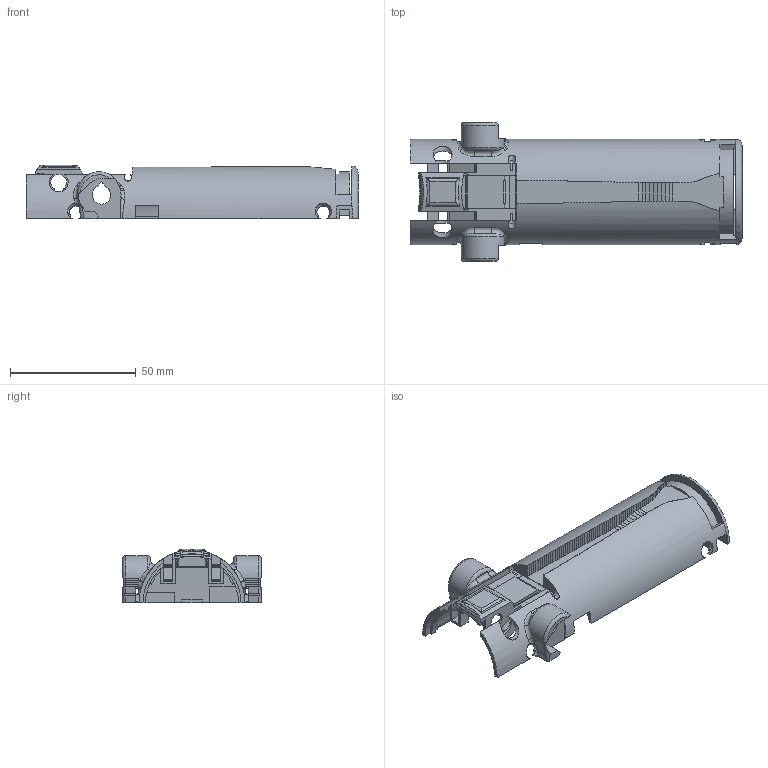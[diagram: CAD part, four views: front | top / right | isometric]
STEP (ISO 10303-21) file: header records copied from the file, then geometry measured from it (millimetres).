
FILE_DESCRIPTION(('Open CASCADE Model'),'2;1');
FILE_NAME('Open CASCADE Shape Model','2026-11-11T07:14:58',('Author'),( 'Open CASCADE'),'Open CASCADE STEP processor 8.0','build123d', 'Unknown');
FILE_SCHEMA(('AUTOMOTIVE_DESIGN { 1 0 10303 214 1 1 1 1 }'));
Products named in the file (1): COMPOUND
Bounding box: 132 x 55.2 x 21.3 mm (x, y, z)
Volume: 15641.1 mm3; surface area: 22772.8 mm2
Topology: 1 solids, 1 shells, 785 faces, 2374 edges, 1575 vertices
Faces by surface type: plane 705, cylinder 53, bspline 18, torus 5, cone 4
Entity records: 70908 total; most frequent: CARTESIAN_POINT 28350, DIRECTION 6515, ORIENTED_EDGE 4748, PCURVE 4748, DEFINITIONAL_REPRESENTATION 4748, LINE 3602, VECTOR 3602, B_SPLINE_CURVE_WITH_KNOTS 2546
